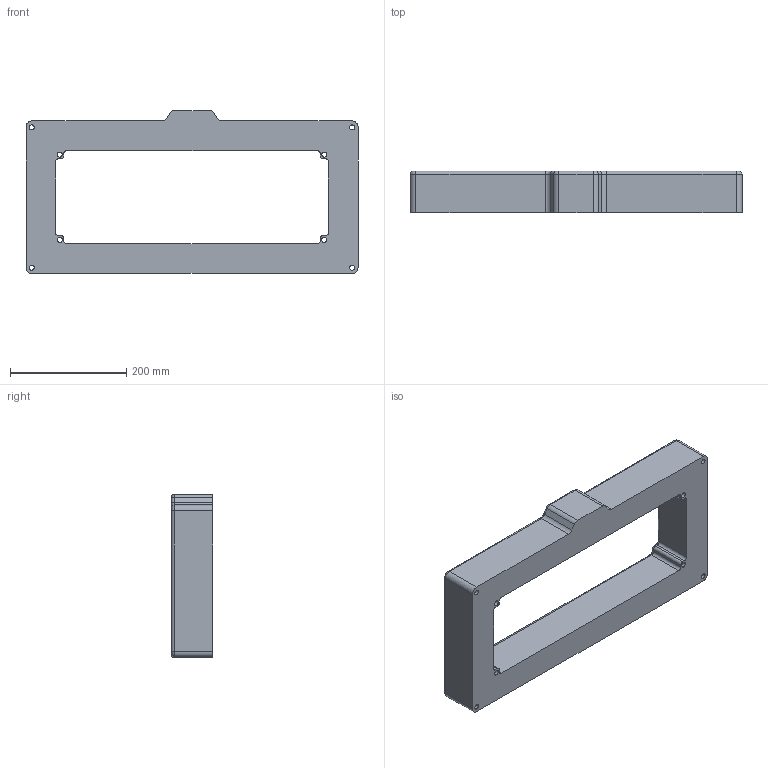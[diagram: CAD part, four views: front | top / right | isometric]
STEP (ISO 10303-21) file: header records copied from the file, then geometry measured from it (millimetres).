
FILE_DESCRIPTION((''),'2;1');
FILE_NAME('SB104897_3D-SOFTWARE_COLOUR','2013-09-02T',('SESA231906'),('Schneider-Electric'),'PRO/ENGINEER BY PARAMETRIC TECHNOLOGY CORPORATION, 2011410','PRO/ENGINEER BY PARAMETRIC TECHNOLOGY CORPORATION, 2011410','');
FILE_SCHEMA(('CONFIG_CONTROL_DESIGN'));
Length unit declared in the file: millimetre
Products named in the file (1): SB104897_3D-SOFTWARE_COLOUR
Bounding box: 571.8 x 71.3 x 280.6 mm (x, y, z)
Volume: 5451847.8 mm3; surface area: 369599 mm2
Topology: 1 solids, 1 shells, 98 faces, 264 edges, 160 vertices
Faces by surface type: cylinder 56, plane 22, torus 10, bspline 6, sphere 4
Entity records: 3279 total; most frequent: CARTESIAN_POINT 776, DIRECTION 526, ORIENTED_EDGE 520, EDGE_CURVE 260, AXIS2_PLACEMENT_3D 209, VERTEX_POINT 160, CIRCLE 117, EDGE_LOOP 112
